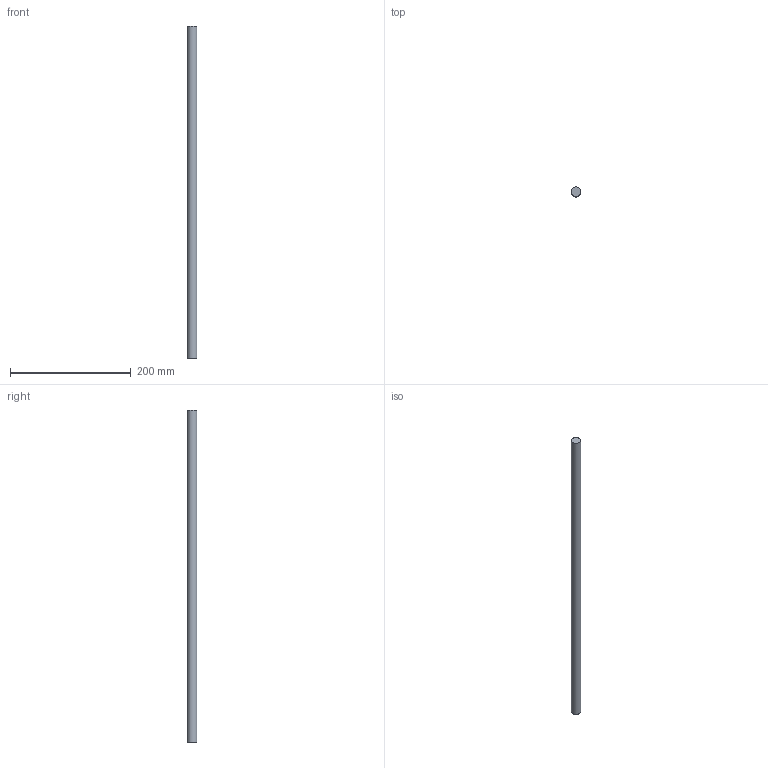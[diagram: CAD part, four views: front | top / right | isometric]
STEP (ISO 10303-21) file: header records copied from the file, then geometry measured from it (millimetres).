
FILE_DESCRIPTION(/* description */ (''),/* implementation_level */ '2;1');
FILE_NAME(/* name */ 'C:\Users\David\Desktop\stepFiles\Profilfuehrung\WF16x550.stp',/* time_stamp */ '2018-06-24T15:46:54+02:00',/* author */ ('David'),/* organization */ (''),/* preprocessor_version */ 'ST-DEVELOPER v17',/* originating_system */ 'Autodesk Inventor 2019',/* authorisation */ '');
FILE_SCHEMA (('AUTOMOTIVE_DESIGN { 1 0 10303 214 3 1 1 }'));
Length unit declared in the file: millimetre
Products named in the file (1): Wellenfuehrung
Bounding box: 16 x 16 x 550 mm (x, y, z)
Volume: 110584.1 mm3; surface area: 28048.1 mm2
Topology: 1 solids, 1 shells, 3 faces, 3 edges, 2 vertices
Faces by surface type: plane 2, cylinder 1
Full cylindrical faces by diameter (mm): 16 x1
Entity records: 98 total; most frequent: DIRECTION 13, CARTESIAN_POINT 9, ORIENTED_EDGE 6, AXIS2_PLACEMENT_3D 6, FACE_OUTER_BOUND 3, EDGE_LOOP 3, EDGE_CURVE 3, ADVANCED_FACE 3
